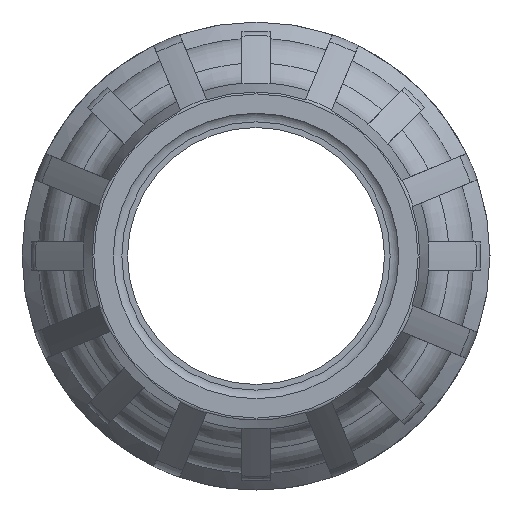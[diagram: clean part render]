
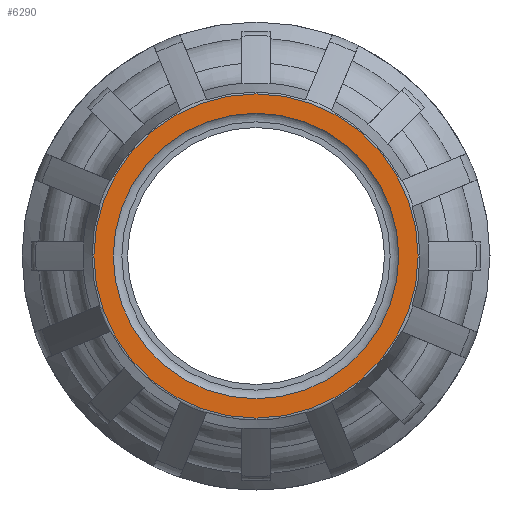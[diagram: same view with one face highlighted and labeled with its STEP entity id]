
A CAD part, left-side view. The second image highlights one B-rep face of the part: STEP entity #6290.
In plain terms, the highlighted planar face has unit normal (-1, 0, 0).
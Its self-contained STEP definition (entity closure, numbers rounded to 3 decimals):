
#90=PLANE('',#6960);
#2792=ORIENTED_EDGE('',*,*,#3977,.F.);
#2793=ORIENTED_EDGE('',*,*,#3994,.F.);
#3977=EDGE_CURVE('',#4711,#4711,#5048,.T.);
#3994=EDGE_CURVE('',#4712,#4712,#5065,.F.);
#4711=VERTEX_POINT('',#12168);
#4712=VERTEX_POINT('',#12203);
#5048=CIRCLE('',#6927,51.959);
#5065=CIRCLE('',#6961,45.75);
#5419=EDGE_LOOP('',(#2792));
#5420=EDGE_LOOP('',(#2793));
#5827=FACE_BOUND('',#5419,.T.);
#5828=FACE_BOUND('',#5420,.T.);
#6290=ADVANCED_FACE('',(#5827,#5828),#90,.F.);
#6927=AXIS2_PLACEMENT_3D('',#12167,#8311,#8312);
#6960=AXIS2_PLACEMENT_3D('',#12201,#8377,#8378);
#6961=AXIS2_PLACEMENT_3D('',#12202,#8379,#8380);
#8311=DIRECTION('',(1.,0.,0.));
#8312=DIRECTION('',(0.,0.,-1.));
#8377=DIRECTION('',(1.,0.,0.));
#8378=DIRECTION('',(0.,0.,-1.));
#8379=DIRECTION('',(1.,0.,0.));
#8380=DIRECTION('',(0.,0.,-1.));
#12167=CARTESIAN_POINT('',(0.,0.,0.));
#12168=CARTESIAN_POINT('',(0.,0.,-51.959));
#12201=CARTESIAN_POINT('',(0.,0.,0.));
#12202=CARTESIAN_POINT('',(0.,0.,0.));
#12203=CARTESIAN_POINT('',(0.,0.,-45.75));
